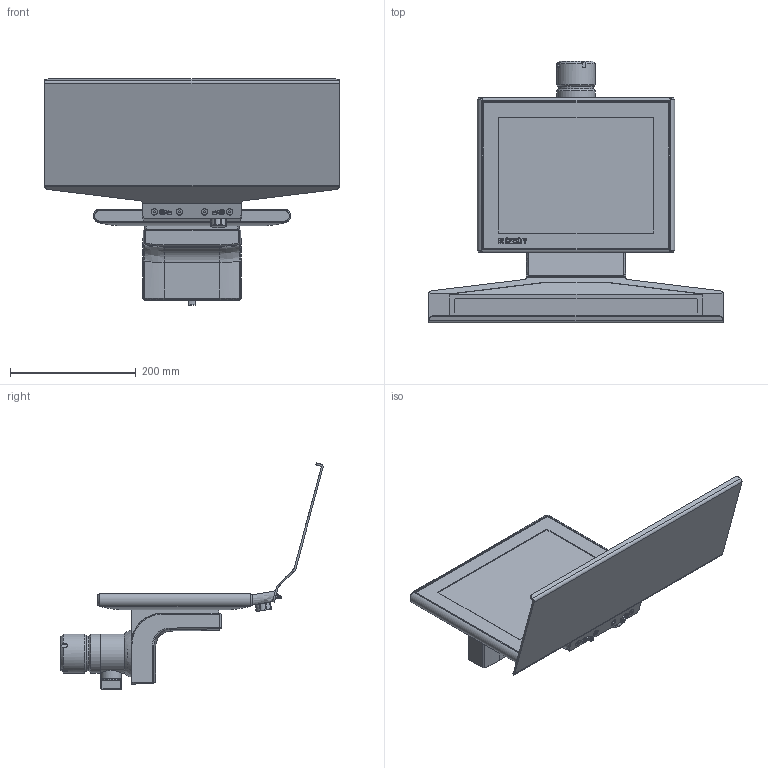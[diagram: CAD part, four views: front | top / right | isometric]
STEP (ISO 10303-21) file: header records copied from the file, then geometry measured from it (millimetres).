
FILE_DESCRIPTION(/* description */ (''),/* implementation_level */ '2;1');
FILE_NAME(/* name */ 'X:\0-inventor\0-3d-Teile\PC-Compo\solids\CP3xxx\0-Ausgabe\CP3912-M750-M406.stp',/* time_stamp */ '2016-03-09T16:49:02+01:00',/* author */ ('christiankreuzer'),/* organization */ ('Design-AG'),/* preprocessor_version */ 'ST-DEVELOPER v16.1',/* originating_system */ 'Autodesk Inventor 2016',/* authorisation */ '');
FILE_SCHEMA (('AUTOMOTIVE_DESIGN { 1 0 10303 214 3 1 1 }'));
Length unit declared in the file: millimetre
Products named in the file (1): CP3912-M750-M406-Step
Bounding box: 468 x 417.36 x 359.74 mm (x, y, z)
Volume: 3496883 mm3; surface area: 573330.6 mm2
Topology: 4 solids, 10 shells, 735 faces, 1914 edges, 1214 vertices
Faces by surface type: plane 389, cylinder 183, bspline 94, cone 61, torus 6, sphere 2
Full cylindrical faces by diameter (mm): 1.5 x1, 4.917 x1, 5.5 x4, 7.6 x2, 8.5 x2, 10 x4, 20.917 x1, 22 x1, 24 x1, 25 x1, 33 x1, 55 x1, 62 x3
Entity records: 25736 total; most frequent: CARTESIAN_POINT 7808, ORIENTED_EDGE 3670, DIRECTION 3306, EDGE_CURVE 1835, VERTEX_POINT 1182, LINE 1126, VECTOR 1126, AXIS2_PLACEMENT_3D 1090
